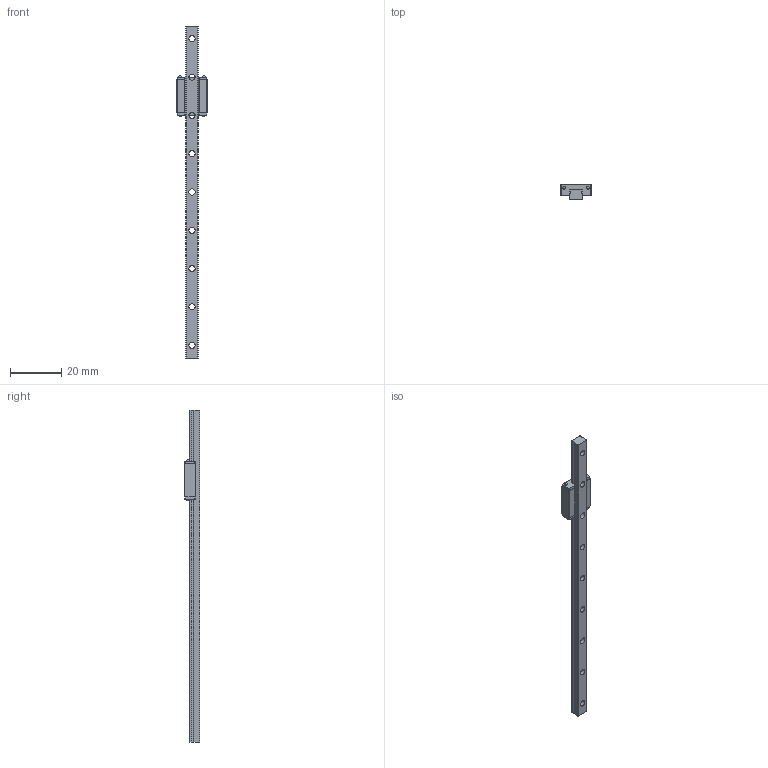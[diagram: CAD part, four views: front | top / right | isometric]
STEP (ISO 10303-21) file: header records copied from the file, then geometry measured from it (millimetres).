
FILE_DESCRIPTION(('STEP AP203'),'1');
FILE_NAME('//192.168.1.1/share/s-4 技術開発/s-4-4_CAD/s-4-4-3_見直し済み/015 修正済み/AMG/AMG_TOP/AMG5-B1-130.step','2022-03-11T05:22:27',(' '),(' '),'Spatial InterOp 3D',' ',' ');
FILE_SCHEMA(('CONFIG_CONTROL_DESIGN'));
Length unit declared in the file: millimetre
Products named in the file (2): 1; 2
Bounding box: 12 x 6 x 130 mm (x, y, z)
Volume: 2926.7 mm3; surface area: 3296.3 mm2
Topology: 2 solids, 2 shells, 93 faces, 237 edges, 161 vertices
Faces by surface type: plane 57, cylinder 30, sphere 4, cone 2
Full cylindrical faces by diameter (mm): 1.567 x4, 2.4 x9, 3.5 x9
Entity records: 2738 total; most frequent: DIRECTION 454, CARTESIAN_POINT 449, ORIENTED_EDGE 404, EDGE_CURVE 202, AXIS2_PLACEMENT_3D 157, VERTEX_POINT 152, EDGE_LOOP 148, LINE 140
